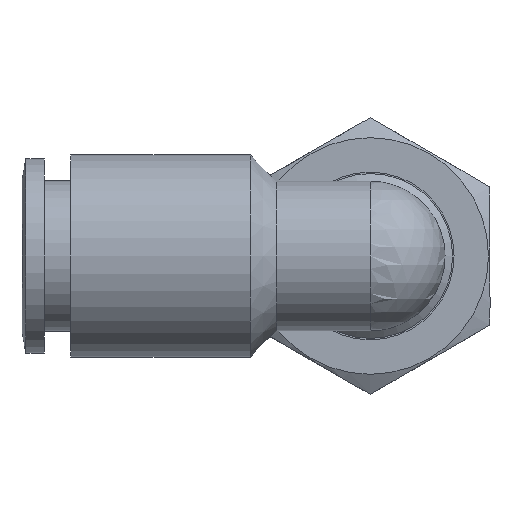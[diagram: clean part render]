
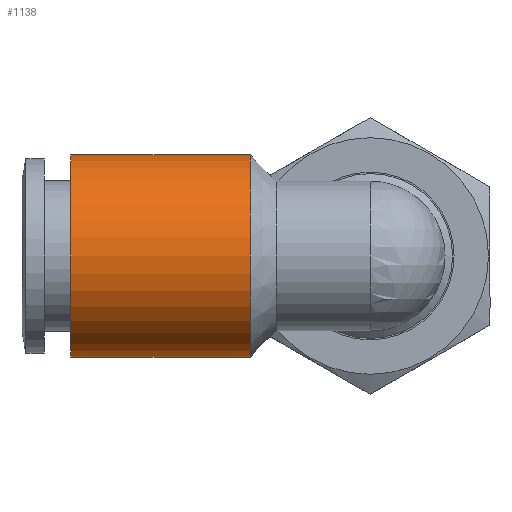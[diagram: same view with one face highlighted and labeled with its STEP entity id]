
A CAD part, left-side view. The second image highlights one B-rep face of the part: STEP entity #1138.
In plain terms, the highlighted cylindrical face has radius 6.75 mm (diameter 13.5 mm), a full revolution.
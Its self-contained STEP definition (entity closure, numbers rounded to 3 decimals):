
#1104=CARTESIAN_POINT('',(-6.75,8.,0.0));
#1105=VERTEX_POINT('',#1104);
#1106=CARTESIAN_POINT('',(0.0,8.,0.0));
#1107=DIRECTION('',(0.0,1.0,0.0));
#1108=DIRECTION('',(-1.0,0.0,0.0));
#1109=AXIS2_PLACEMENT_3D('',#1106,#1107,#1108);
#1110=CIRCLE('',#1109,6.75);
#1111=EDGE_CURVE('',#1105,#1105,#1110,.T.);
#1119=CARTESIAN_POINT('',(0.0,14.0,0.0));
#1120=DIRECTION('',(0.0,1.0,0.0));
#1121=DIRECTION('',(-1.0,0.0,0.0));
#1122=AXIS2_PLACEMENT_3D('',#1119,#1120,#1121);
#1123=CYLINDRICAL_SURFACE('',#1122,6.75);
#1124=CARTESIAN_POINT('',(-6.75,20.0,0.0));
#1125=VERTEX_POINT('',#1124);
#1126=CARTESIAN_POINT('',(0.0,20.0,0.0));
#1127=DIRECTION('',(0.0,1.0,0.0));
#1128=DIRECTION('',(-1.0,0.0,0.0));
#1129=AXIS2_PLACEMENT_3D('',#1126,#1127,#1128);
#1130=CIRCLE('',#1129,6.75);
#1131=EDGE_CURVE('',#1125,#1125,#1130,.T.);
#1132=ORIENTED_EDGE('',*,*,#1131,.F.);
#1133=EDGE_LOOP('',(#1132));
#1134=FACE_OUTER_BOUND('',#1133,.T.);
#1135=ORIENTED_EDGE('',*,*,#1111,.T.);
#1136=EDGE_LOOP('',(#1135));
#1137=FACE_BOUND('',#1136,.T.);
#1138=ADVANCED_FACE('',(#1134,#1137),#1123,.T.);
